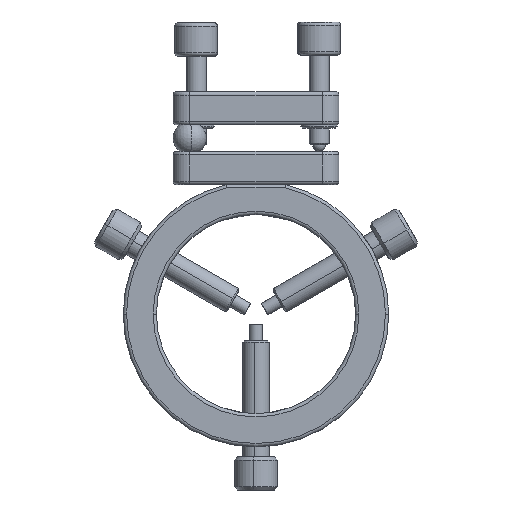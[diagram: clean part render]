
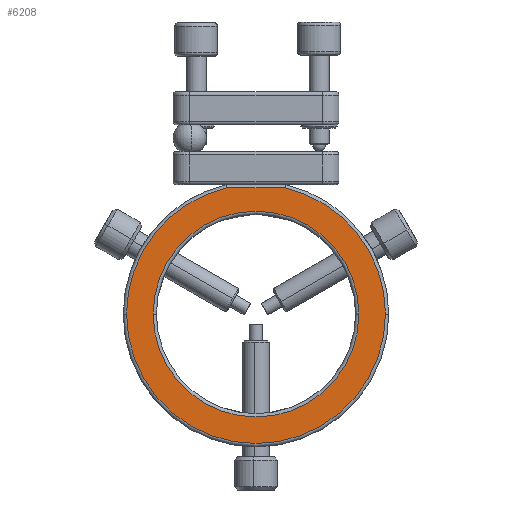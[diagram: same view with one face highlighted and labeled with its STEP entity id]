
A CAD part, left-side view. The second image highlights one B-rep face of the part: STEP entity #6208.
In plain terms, the highlighted planar face has unit normal (-1, 0, 0).
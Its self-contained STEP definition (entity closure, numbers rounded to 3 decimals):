
#349 = VECTOR ( 'NONE', #4040, 1000. ) ;
#738 = EDGE_CURVE ( 'NONE', #6446, #10536, #2504, .T. ) ;
#791 = DIRECTION ( 'NONE',  ( 1., 0., 0. ) ) ;
#1304 = DIRECTION ( 'NONE',  ( 0., -1., 0. ) ) ;
#1456 = VERTEX_POINT ( 'NONE', #7514 ) ;
#1907 = ORIENTED_EDGE ( 'NONE', *, *, #8909, .T. ) ;
#2504 = CIRCLE ( 'NONE', #10956, 39. ) ;
#2566 = AXIS2_PLACEMENT_3D ( 'NONE', #4692, #6407, #1304 ) ;
#2630 = CARTESIAN_POINT ( 'NONE',  ( -100., 0., -39. ) ) ;
#3306 = CIRCLE ( 'NONE', #6642, 39. ) ;
#3327 = ORIENTED_EDGE ( 'NONE', *, *, #6274, .T. ) ;
#3350 = ORIENTED_EDGE ( 'NONE', *, *, #8203, .T. ) ;
#3477 = DIRECTION ( 'NONE',  ( 0., -1., 0. ) ) ;
#3595 = VERTEX_POINT ( 'NONE', #7031 ) ;
#3709 = AXIS2_PLACEMENT_3D ( 'NONE', #3956, #9893, #4804 ) ;
#3718 = CARTESIAN_POINT ( 'NONE',  ( -100., 0., -39. ) ) ;
#3956 = CARTESIAN_POINT ( 'NONE',  ( -100., 0., -39. ) ) ;
#4040 = DIRECTION ( 'NONE',  ( 0., 1., 0. ) ) ;
#4139 = ORIENTED_EDGE ( 'NONE', *, *, #4415, .T. ) ;
#4302 = CIRCLE ( 'NONE', #4431, 39. ) ;
#4415 = EDGE_CURVE ( 'NONE', #10472, #6446, #3306, .T. ) ;
#4431 = AXIS2_PLACEMENT_3D ( 'NONE', #3718, #9659, #4575 ) ;
#4575 = DIRECTION ( 'NONE',  ( 0., -1., 0. ) ) ;
#4692 = CARTESIAN_POINT ( 'NONE',  ( -100., 0., -39. ) ) ;
#4764 = EDGE_LOOP ( 'NONE', ( #3327, #4949 ) ) ;
#4804 = DIRECTION ( 'NONE',  ( 0., -1., 0. ) ) ;
#4841 = FACE_BOUND ( 'NONE', #4764, .T. ) ;
#4949 = ORIENTED_EDGE ( 'NONE', *, *, #7438, .T. ) ;
#5470 = AXIS2_PLACEMENT_3D ( 'NONE', #5859, #791, #6741 ) ;
#5527 = DIRECTION ( 'NONE',  ( -1., 0., 0. ) ) ;
#5699 = CARTESIAN_POINT ( 'NONE',  ( -100., 8.775, -1. ) ) ;
#5859 = CARTESIAN_POINT ( 'NONE',  ( -100., 0., -39. ) ) ;
#6208 = ADVANCED_FACE ( 'NONE', ( #4841, #7653 ), #8084, .F. ) ;
#6274 = EDGE_CURVE ( 'NONE', #1456, #3595, #10808, .T. ) ;
#6407 = DIRECTION ( 'NONE',  ( 1., 0., 0. ) ) ;
#6446 = VERTEX_POINT ( 'NONE', #9547 ) ;
#6642 = AXIS2_PLACEMENT_3D ( 'NONE', #2630, #8588, #3477 ) ;
#6687 = CIRCLE ( 'NONE', #5470, 31. ) ;
#6741 = DIRECTION ( 'NONE',  ( 0., -1., 0. ) ) ;
#6926 = EDGE_LOOP ( 'NONE', ( #3350, #4139, #10341, #1907 ) ) ;
#7031 = CARTESIAN_POINT ( 'NONE',  ( -100., 31., -39. ) ) ;
#7438 = EDGE_CURVE ( 'NONE', #3595, #1456, #6687, .T. ) ;
#7488 = DIRECTION ( 'NONE',  ( 0., -1., 0. ) ) ;
#7514 = CARTESIAN_POINT ( 'NONE',  ( -100., -31., -39. ) ) ;
#7653 = FACE_OUTER_BOUND ( 'NONE', #6926, .T. ) ;
#8084 = PLANE ( 'NONE',  #2566 ) ;
#8203 = EDGE_CURVE ( 'NONE', #9997, #10472, #4302, .T. ) ;
#8588 = DIRECTION ( 'NONE',  ( -1., 0., 0. ) ) ;
#8909 = EDGE_CURVE ( 'NONE', #10536, #9997, #9117, .T. ) ;
#9006 = CARTESIAN_POINT ( 'NONE',  ( -100., 39., -39. ) ) ;
#9117 = LINE ( 'NONE', #10781, #349 ) ;
#9547 = CARTESIAN_POINT ( 'NONE',  ( -100., -39., -39. ) ) ;
#9659 = DIRECTION ( 'NONE',  ( -1., 0., 0. ) ) ;
#9893 = DIRECTION ( 'NONE',  ( 1., 0., 0. ) ) ;
#9997 = VERTEX_POINT ( 'NONE', #5699 ) ;
#10003 = CARTESIAN_POINT ( 'NONE',  ( -100., -8.775, -1. ) ) ;
#10341 = ORIENTED_EDGE ( 'NONE', *, *, #738, .T. ) ;
#10472 = VERTEX_POINT ( 'NONE', #9006 ) ;
#10536 = VERTEX_POINT ( 'NONE', #10003 ) ;
#10657 = CARTESIAN_POINT ( 'NONE',  ( -100., 0., -39. ) ) ;
#10781 = CARTESIAN_POINT ( 'NONE',  ( -100., 0., -1. ) ) ;
#10808 = CIRCLE ( 'NONE', #3709, 31. ) ;
#10956 = AXIS2_PLACEMENT_3D ( 'NONE', #10657, #5527, #7488 ) ;
